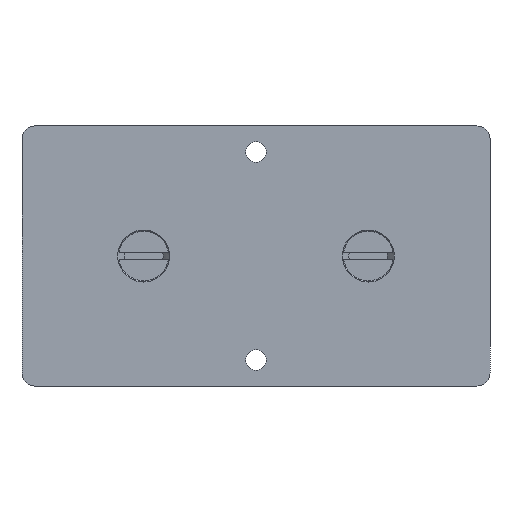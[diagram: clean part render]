
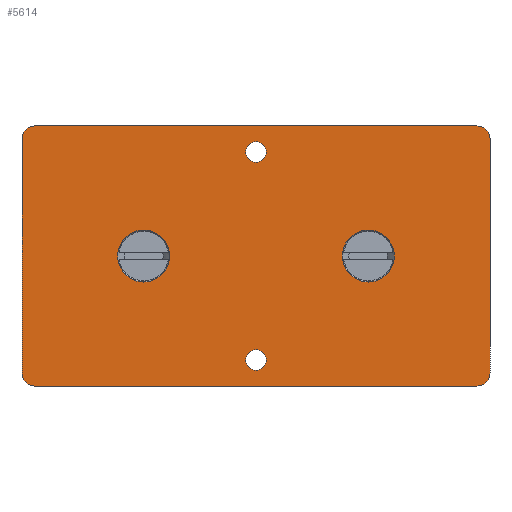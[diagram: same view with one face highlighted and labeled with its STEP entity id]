
A CAD part, front view. The second image highlights one B-rep face of the part: STEP entity #5614.
In plain terms, the highlighted planar face has unit normal (0, -1, 0).
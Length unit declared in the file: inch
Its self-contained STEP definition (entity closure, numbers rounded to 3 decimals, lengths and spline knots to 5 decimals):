
#24 = EDGE_CURVE ( 'NONE', #3868, #959, #1973, .T. ) ;
#28 = VERTEX_POINT ( 'NONE', #1177 ) ;
#43 = CARTESIAN_POINT ( 'NONE',  ( 0., 0., 1.0995 ) ) ;
#199 = EDGE_LOOP ( 'NONE', ( #4508, #4479 ) ) ;
#231 = CARTESIAN_POINT ( 'NONE',  ( -2.25, 0., 1.25 ) ) ;
#255 = AXIS2_PLACEMENT_3D ( 'NONE', #623, #4232, #1160 ) ;
#261 = DIRECTION ( 'NONE',  ( 0., -1., 0. ) ) ;
#264 = EDGE_CURVE ( 'NONE', #5953, #5748, #3771, .T. ) ;
#350 = DIRECTION ( 'NONE',  ( 0., 0., 1. ) ) ;
#379 = CARTESIAN_POINT ( 'NONE',  ( 1.08, 0., 0. ) ) ;
#391 = CARTESIAN_POINT ( 'NONE',  ( -2.25, 0., 1.25 ) ) ;
#400 = DIRECTION ( 'NONE',  ( 0., 0., 1. ) ) ;
#469 = ORIENTED_EDGE ( 'NONE', *, *, #4807, .T. ) ;
#618 = AXIS2_PLACEMENT_3D ( 'NONE', #1628, #6568, #1023 ) ;
#623 = CARTESIAN_POINT ( 'NONE',  ( -1.08, 0., 0. ) ) ;
#655 = EDGE_CURVE ( 'NONE', #5993, #5748, #2789, .T. ) ;
#667 = CARTESIAN_POINT ( 'NONE',  ( 2.25, 0., 1.25 ) ) ;
#705 = ORIENTED_EDGE ( 'NONE', *, *, #2440, .T. ) ;
#753 = DIRECTION ( 'NONE',  ( 0., 0., 1. ) ) ;
#824 = DIRECTION ( 'NONE',  ( 0., 0., -1. ) ) ;
#884 = EDGE_CURVE ( 'NONE', #1044, #4185, #3562, .T. ) ;
#897 = FACE_BOUND ( 'NONE', #2849, .T. ) ;
#959 = VERTEX_POINT ( 'NONE', #3657 ) ;
#1023 = DIRECTION ( 'NONE',  ( 0., 0., 1. ) ) ;
#1027 = DIRECTION ( 'NONE',  ( 0., -1., 0. ) ) ;
#1044 = VERTEX_POINT ( 'NONE', #2259 ) ;
#1134 = DIRECTION ( 'NONE',  ( 0., -1., 0. ) ) ;
#1142 = DIRECTION ( 'NONE',  ( 0., 1., 0. ) ) ;
#1160 = DIRECTION ( 'NONE',  ( 0., 0., -1. ) ) ;
#1177 = CARTESIAN_POINT ( 'NONE',  ( 1.08, 0., 0.25 ) ) ;
#1197 = VECTOR ( 'NONE', #4750, 39.37008 ) ;
#1241 = AXIS2_PLACEMENT_3D ( 'NONE', #5708, #1134, #5203 ) ;
#1244 = DIRECTION ( 'NONE',  ( 1., 0., 0. ) ) ;
#1289 = CARTESIAN_POINT ( 'NONE',  ( 0., 0., 1. ) ) ;
#1331 = CARTESIAN_POINT ( 'NONE',  ( 2.125, 0., 1.25 ) ) ;
#1351 = VERTEX_POINT ( 'NONE', #5738 ) ;
#1356 = CARTESIAN_POINT ( 'NONE',  ( -2.25, 0., 1.125 ) ) ;
#1357 = CARTESIAN_POINT ( 'NONE',  ( -1.08, 0., -0.25 ) ) ;
#1478 = EDGE_CURVE ( 'NONE', #6542, #28, #4122, .T. ) ;
#1548 = VECTOR ( 'NONE', #3722, 39.37008 ) ;
#1628 = CARTESIAN_POINT ( 'NONE',  ( 0., 0., -1. ) ) ;
#1677 = EDGE_CURVE ( 'NONE', #5993, #1983, #4695, .T. ) ;
#1805 = AXIS2_PLACEMENT_3D ( 'NONE', #6059, #4009, #350 ) ;
#1900 = CARTESIAN_POINT ( 'NONE',  ( 2.125, 0., -1.25 ) ) ;
#1905 = CARTESIAN_POINT ( 'NONE',  ( -1.08, 0., 0. ) ) ;
#1951 = DIRECTION ( 'NONE',  ( 0., 0., 1. ) ) ;
#1973 = CIRCLE ( 'NONE', #5883, 0.125 ) ;
#1983 = VERTEX_POINT ( 'NONE', #1356 ) ;
#2012 = EDGE_LOOP ( 'NONE', ( #2700, #5533 ) ) ;
#2081 = EDGE_CURVE ( 'NONE', #1983, #4720, #3967, .T. ) ;
#2085 = ORIENTED_EDGE ( 'NONE', *, *, #655, .F. ) ;
#2088 = DIRECTION ( 'NONE',  ( 0., 0., 1. ) ) ;
#2103 = PLANE ( 'NONE',  #4302 ) ;
#2184 = CIRCLE ( 'NONE', #3883, 0.25 ) ;
#2191 = AXIS2_PLACEMENT_3D ( 'NONE', #4228, #4195, #4702 ) ;
#2259 = CARTESIAN_POINT ( 'NONE',  ( 0., 0., -1.0995 ) ) ;
#2321 = VERTEX_POINT ( 'NONE', #43 ) ;
#2323 = CARTESIAN_POINT ( 'NONE',  ( 1.08, 0., -0.25 ) ) ;
#2440 = EDGE_CURVE ( 'NONE', #4720, #1351, #2521, .T. ) ;
#2444 = CARTESIAN_POINT ( 'NONE',  ( 2.125, 0., 1.125 ) ) ;
#2451 = VECTOR ( 'NONE', #6087, 39.37008 ) ;
#2508 = CIRCLE ( 'NONE', #3992, 0.0995 ) ;
#2511 = EDGE_LOOP ( 'NONE', ( #5226, #3794 ) ) ;
#2521 = CIRCLE ( 'NONE', #3140, 0.125 ) ;
#2527 = VERTEX_POINT ( 'NONE', #4689 ) ;
#2562 = CIRCLE ( 'NONE', #3725, 0.25 ) ;
#2700 = ORIENTED_EDGE ( 'NONE', *, *, #1478, .F. ) ;
#2753 = ORIENTED_EDGE ( 'NONE', *, *, #24, .T. ) ;
#2768 = DIRECTION ( 'NONE',  ( 0., 1., 0. ) ) ;
#2789 = LINE ( 'NONE', #231, #1548 ) ;
#2849 = EDGE_LOOP ( 'NONE', ( #6590, #5610 ) ) ;
#2871 = AXIS2_PLACEMENT_3D ( 'NONE', #5717, #1142, #2088 ) ;
#2894 = VERTEX_POINT ( 'NONE', #5191 ) ;
#2913 = DIRECTION ( 'NONE',  ( 0., -1., 0. ) ) ;
#2947 = FACE_BOUND ( 'NONE', #199, .T. ) ;
#3017 = ORIENTED_EDGE ( 'NONE', *, *, #1677, .T. ) ;
#3129 = FACE_BOUND ( 'NONE', #2012, .T. ) ;
#3140 = AXIS2_PLACEMENT_3D ( 'NONE', #4989, #6077, #400 ) ;
#3192 = CIRCLE ( 'NONE', #2871, 0.0995 ) ;
#3209 = LINE ( 'NONE', #667, #1197 ) ;
#3424 = EDGE_CURVE ( 'NONE', #2894, #2321, #3192, .T. ) ;
#3476 = DIRECTION ( 'NONE',  ( 0., 0., 1. ) ) ;
#3498 = EDGE_CURVE ( 'NONE', #2527, #3981, #2562, .T. ) ;
#3562 = CIRCLE ( 'NONE', #618, 0.0995 ) ;
#3657 = CARTESIAN_POINT ( 'NONE',  ( 2.25, 0., -1.125 ) ) ;
#3722 = DIRECTION ( 'NONE',  ( 1., 0., 0. ) ) ;
#3725 = AXIS2_PLACEMENT_3D ( 'NONE', #1905, #5242, #824 ) ;
#3738 = EDGE_CURVE ( 'NONE', #3981, #2527, #5706, .T. ) ;
#3771 = CIRCLE ( 'NONE', #4523, 0.125 ) ;
#3794 = ORIENTED_EDGE ( 'NONE', *, *, #884, .T. ) ;
#3868 = VERTEX_POINT ( 'NONE', #1900 ) ;
#3883 = AXIS2_PLACEMENT_3D ( 'NONE', #379, #1027, #6027 ) ;
#3954 = CARTESIAN_POINT ( 'NONE',  ( -2.25, 0., -1.125 ) ) ;
#3967 = LINE ( 'NONE', #5495, #2451 ) ;
#3981 = VERTEX_POINT ( 'NONE', #1357 ) ;
#3992 = AXIS2_PLACEMENT_3D ( 'NONE', #1289, #2768, #753 ) ;
#4009 = DIRECTION ( 'NONE',  ( 0., -1., 0. ) ) ;
#4122 = CIRCLE ( 'NONE', #1241, 0.25 ) ;
#4138 = CARTESIAN_POINT ( 'NONE',  ( 2.25, 0., 1.125 ) ) ;
#4185 = VERTEX_POINT ( 'NONE', #4331 ) ;
#4195 = DIRECTION ( 'NONE',  ( 0., 1., 0. ) ) ;
#4228 = CARTESIAN_POINT ( 'NONE',  ( 0., 0., -1. ) ) ;
#4232 = DIRECTION ( 'NONE',  ( 0., -1., 0. ) ) ;
#4275 = LINE ( 'NONE', #4783, #5457 ) ;
#4302 = AXIS2_PLACEMENT_3D ( 'NONE', #391, #5510, #1951 ) ;
#4313 = CARTESIAN_POINT ( 'NONE',  ( 2.125, 0., -1.125 ) ) ;
#4331 = CARTESIAN_POINT ( 'NONE',  ( 0., 0., -0.9005 ) ) ;
#4466 = ORIENTED_EDGE ( 'NONE', *, *, #2081, .T. ) ;
#4479 = ORIENTED_EDGE ( 'NONE', *, *, #3424, .T. ) ;
#4508 = ORIENTED_EDGE ( 'NONE', *, *, #6097, .T. ) ;
#4523 = AXIS2_PLACEMENT_3D ( 'NONE', #2444, #2913, #3476 ) ;
#4689 = CARTESIAN_POINT ( 'NONE',  ( -1.08, 0., 0.25 ) ) ;
#4695 = CIRCLE ( 'NONE', #1805, 0.125 ) ;
#4702 = DIRECTION ( 'NONE',  ( 0., 0., 1. ) ) ;
#4708 = CARTESIAN_POINT ( 'NONE',  ( -2.125, 0., 1.25 ) ) ;
#4720 = VERTEX_POINT ( 'NONE', #3954 ) ;
#4750 = DIRECTION ( 'NONE',  ( 0., 0., -1. ) ) ;
#4783 = CARTESIAN_POINT ( 'NONE',  ( -2.25, 0., -1.25 ) ) ;
#4807 = EDGE_CURVE ( 'NONE', #1351, #3868, #4275, .T. ) ;
#4989 = CARTESIAN_POINT ( 'NONE',  ( -2.125, 0., -1.125 ) ) ;
#5191 = CARTESIAN_POINT ( 'NONE',  ( 0., 0., 0.9005 ) ) ;
#5203 = DIRECTION ( 'NONE',  ( 0., 0., 1. ) ) ;
#5226 = ORIENTED_EDGE ( 'NONE', *, *, #6387, .T. ) ;
#5242 = DIRECTION ( 'NONE',  ( 0., -1., 0. ) ) ;
#5280 = DIRECTION ( 'NONE',  ( 0., 0., 1. ) ) ;
#5294 = EDGE_CURVE ( 'NONE', #5953, #959, #3209, .T. ) ;
#5443 = ORIENTED_EDGE ( 'NONE', *, *, #5294, .F. ) ;
#5457 = VECTOR ( 'NONE', #1244, 39.37008 ) ;
#5495 = CARTESIAN_POINT ( 'NONE',  ( -2.25, 0., 1.25 ) ) ;
#5510 = DIRECTION ( 'NONE',  ( 0., 1., 0. ) ) ;
#5533 = ORIENTED_EDGE ( 'NONE', *, *, #6223, .F. ) ;
#5610 = ORIENTED_EDGE ( 'NONE', *, *, #3498, .F. ) ;
#5614 = ADVANCED_FACE ( 'NONE', ( #3129, #897, #2947, #6508, #6477 ), #2103, .F. ) ;
#5698 = CIRCLE ( 'NONE', #2191, 0.0995 ) ;
#5706 = CIRCLE ( 'NONE', #255, 0.25 ) ;
#5708 = CARTESIAN_POINT ( 'NONE',  ( 1.08, 0., 0. ) ) ;
#5717 = CARTESIAN_POINT ( 'NONE',  ( 0., 0., 1. ) ) ;
#5738 = CARTESIAN_POINT ( 'NONE',  ( -2.125, 0., -1.25 ) ) ;
#5748 = VERTEX_POINT ( 'NONE', #1331 ) ;
#5883 = AXIS2_PLACEMENT_3D ( 'NONE', #4313, #261, #5280 ) ;
#5935 = EDGE_LOOP ( 'NONE', ( #4466, #705, #469, #2753, #5443, #6082, #2085, #3017 ) ) ;
#5953 = VERTEX_POINT ( 'NONE', #4138 ) ;
#5993 = VERTEX_POINT ( 'NONE', #4708 ) ;
#6027 = DIRECTION ( 'NONE',  ( 0., 0., 1. ) ) ;
#6059 = CARTESIAN_POINT ( 'NONE',  ( -2.125, 0., 1.125 ) ) ;
#6077 = DIRECTION ( 'NONE',  ( 0., -1., 0. ) ) ;
#6082 = ORIENTED_EDGE ( 'NONE', *, *, #264, .T. ) ;
#6087 = DIRECTION ( 'NONE',  ( 0., 0., -1. ) ) ;
#6097 = EDGE_CURVE ( 'NONE', #2321, #2894, #2508, .T. ) ;
#6223 = EDGE_CURVE ( 'NONE', #28, #6542, #2184, .T. ) ;
#6387 = EDGE_CURVE ( 'NONE', #4185, #1044, #5698, .T. ) ;
#6477 = FACE_OUTER_BOUND ( 'NONE', #5935, .T. ) ;
#6508 = FACE_BOUND ( 'NONE', #2511, .T. ) ;
#6542 = VERTEX_POINT ( 'NONE', #2323 ) ;
#6568 = DIRECTION ( 'NONE',  ( 0., 1., 0. ) ) ;
#6590 = ORIENTED_EDGE ( 'NONE', *, *, #3738, .F. ) ;
